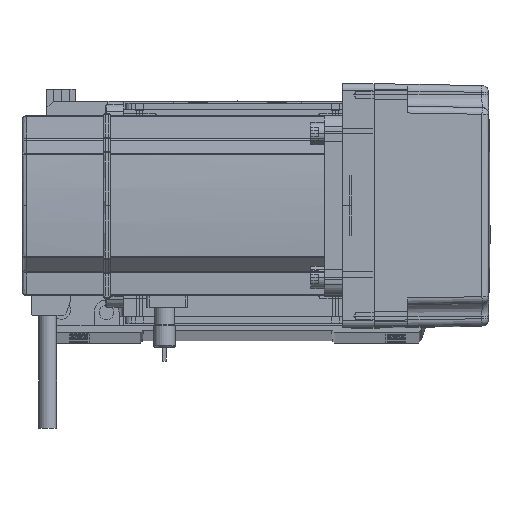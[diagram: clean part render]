
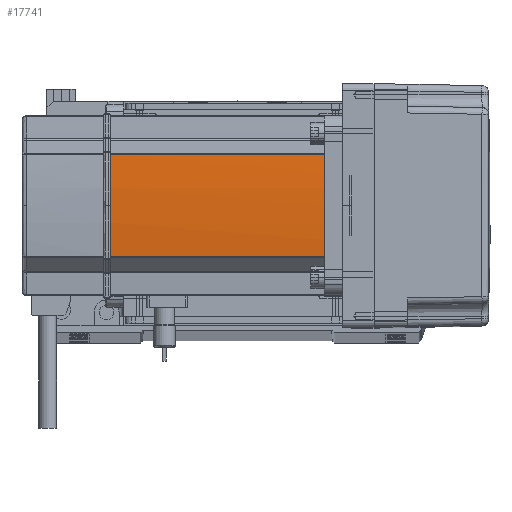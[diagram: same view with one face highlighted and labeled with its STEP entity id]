
A CAD part, top view. The second image highlights one B-rep face of the part: STEP entity #17741.
In plain terms, the highlighted cylindrical face has radius 270 mm (diameter 540 mm), a partial arc.
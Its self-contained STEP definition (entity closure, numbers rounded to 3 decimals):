
#442 = CIRCLE ( 'NONE', #35805, 270. ) ;
#1424 = DIRECTION ( 'NONE',  ( 1., 0., 0. ) ) ;
#4007 = ORIENTED_EDGE ( 'NONE', *, *, #30826, .T. ) ;
#5637 = VECTOR ( 'NONE', #16014, 1000. ) ;
#8505 = EDGE_CURVE ( 'NONE', #32849, #15149, #59101, .T. ) ;
#9923 = ORIENTED_EDGE ( 'NONE', *, *, #43302, .T. ) ;
#10178 = AXIS2_PLACEMENT_3D ( 'NONE', #21524, #36102, #1424 ) ;
#11639 = CARTESIAN_POINT ( 'NONE',  ( 230., 0., 39. ) ) ;
#11731 = ORIENTED_EDGE ( 'NONE', *, *, #51956, .T. ) ;
#15149 = VERTEX_POINT ( 'NONE', #20069 ) ;
#16014 = DIRECTION ( 'NONE',  ( 0., 0., -1. ) ) ;
#17741 = ADVANCED_FACE ( 'NONE', ( #55997 ), #25650, .T. ) ;
#18964 = CARTESIAN_POINT ( 'NONE',  ( -39.042, 22.724, 134. ) ) ;
#19098 = VERTEX_POINT ( 'NONE', #18964 ) ;
#20069 = CARTESIAN_POINT ( 'NONE',  ( -40., 0., 134. ) ) ;
#21268 = DIRECTION ( 'NONE',  ( 1., 0., 0. ) ) ;
#21524 = CARTESIAN_POINT ( 'NONE',  ( 230., 0., 0. ) ) ;
#21919 = LINE ( 'NONE', #60549, #5637 ) ;
#22927 = LINE ( 'NONE', #43612, #29889 ) ;
#25169 = VERTEX_POINT ( 'NONE', #62887 ) ;
#25650 = CYLINDRICAL_SURFACE ( 'NONE', #10178, 270. ) ;
#26980 = DIRECTION ( 'NONE',  ( 0., 0., -1. ) ) ;
#29889 = VECTOR ( 'NONE', #44451, 1000. ) ;
#30826 = EDGE_CURVE ( 'NONE', #15149, #19098, #60132, .T. ) ;
#32849 = VERTEX_POINT ( 'NONE', #63634 ) ;
#34380 = DIRECTION ( 'NONE',  ( 1., 0., 0. ) ) ;
#34425 = EDGE_LOOP ( 'NONE', ( #57609, #4007, #11731, #59334, #9923 ) ) ;
#35664 = DIRECTION ( 'NONE',  ( 0., 0., -1. ) ) ;
#35805 = AXIS2_PLACEMENT_3D ( 'NONE', #11639, #26980, #56382 ) ;
#36102 = DIRECTION ( 'NONE',  ( 0., 0., 1. ) ) ;
#42899 = VERTEX_POINT ( 'NONE', #55196 ) ;
#43302 = EDGE_CURVE ( 'NONE', #25169, #32849, #22927, .T. ) ;
#43612 = CARTESIAN_POINT ( 'NONE',  ( -39.042, -22.724, 0. ) ) ;
#44451 = DIRECTION ( 'NONE',  ( 0., 0., 1. ) ) ;
#45660 = AXIS2_PLACEMENT_3D ( 'NONE', #54812, #49804, #34380 ) ;
#47147 = AXIS2_PLACEMENT_3D ( 'NONE', #51081, #35664, #21268 ) ;
#49804 = DIRECTION ( 'NONE',  ( 0., 0., -1. ) ) ;
#50443 = EDGE_CURVE ( 'NONE', #25169, #42899, #442, .T. ) ;
#51081 = CARTESIAN_POINT ( 'NONE',  ( 230., 0., 134. ) ) ;
#51956 = EDGE_CURVE ( 'NONE', #19098, #42899, #21919, .T. ) ;
#54812 = CARTESIAN_POINT ( 'NONE',  ( 230., 0., 134. ) ) ;
#55196 = CARTESIAN_POINT ( 'NONE',  ( -39.042, 22.724, 39. ) ) ;
#55997 = FACE_OUTER_BOUND ( 'NONE', #34425, .T. ) ;
#56382 = DIRECTION ( 'NONE',  ( 1., 0., 0. ) ) ;
#57609 = ORIENTED_EDGE ( 'NONE', *, *, #8505, .T. ) ;
#59101 = CIRCLE ( 'NONE', #47147, 270. ) ;
#59334 = ORIENTED_EDGE ( 'NONE', *, *, #50443, .F. ) ;
#60132 = CIRCLE ( 'NONE', #45660, 270. ) ;
#60549 = CARTESIAN_POINT ( 'NONE',  ( -39.042, 22.724, 0. ) ) ;
#62887 = CARTESIAN_POINT ( 'NONE',  ( -39.042, -22.724, 39. ) ) ;
#63634 = CARTESIAN_POINT ( 'NONE',  ( -39.042, -22.724, 134. ) ) ;
